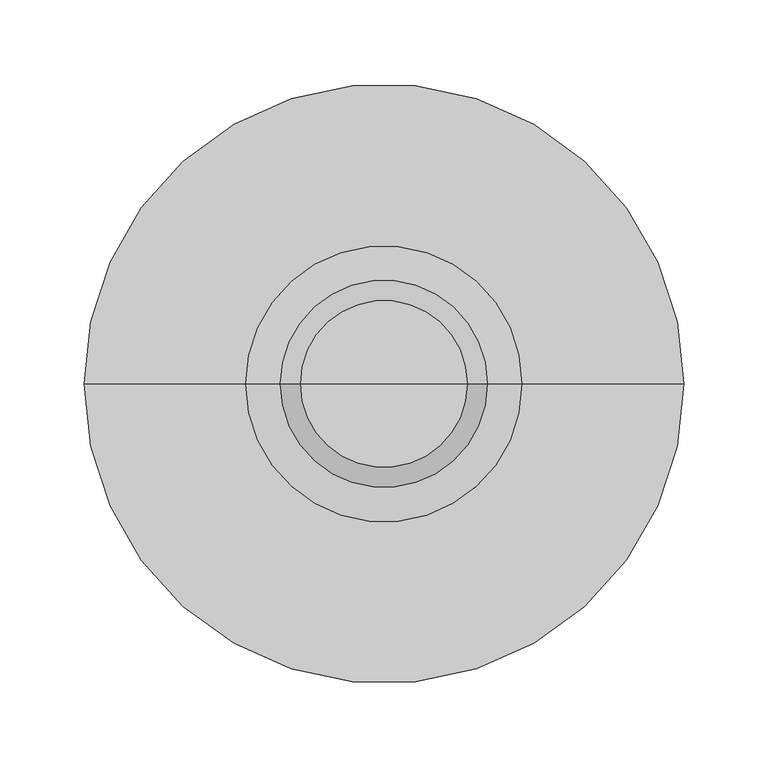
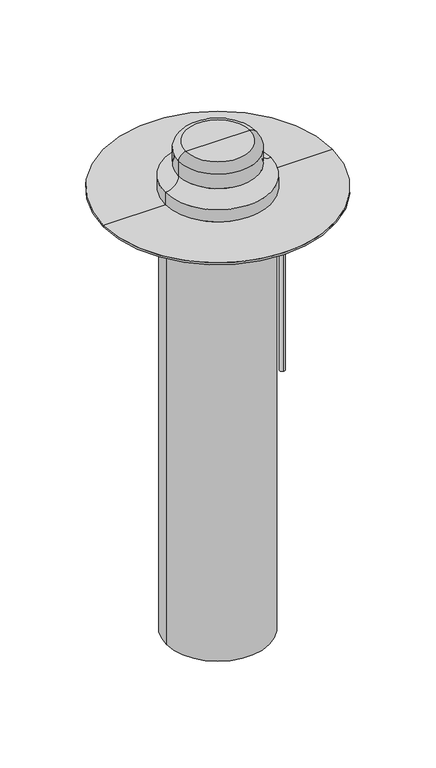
"""IFC4 building model written with IfcOpenShell, lengths in millimetres: flow terminal geometry, BIMLIB_Воронка_Кровельная_Fachmann_VMO : 160х720."""

import ifcopenshell
import ifcopenshell.guid

model = None  # the IFC model being written
_history = None  # IfcOwnerHistory: only IFC2X3 demands one
_inside = {}  # id of a spatial element -> (the spatial element, [elements in it])
_under = {}  # id of a project, library or spatial element -> (it, [spatial elements below it])
_declared = {}  # id of a project -> (the project, [libraries it declares])
_typed = {}  # id of a type object -> (the type object, [elements of that type])
_made_of = {}  # id of a material, layer set ... -> (it, [elements and type objects made of it])


def new_model(schema):
    """Start an empty IFC model of exactly this schema.

    Asked for "IFC4X3", IfcOpenShell would pick the latest addendum, in which some entities
    have other attributes; the version numbers below select the first issue.
    IFC2X3 requires an IfcOwnerHistory on every rooted entity: one is made here for all.
    """
    global model, _history
    if schema == "IFC4X3":
        model = ifcopenshell.file(schema_version=(4, 3, 0, 0))
    else:
        model = ifcopenshell.file(schema=schema)
    _inside.clear()
    _under.clear()
    _declared.clear()
    _typed.clear()
    _made_of.clear()
    _history = None
    if model.schema == "IFC2X3":
        org = make("IfcOrganization", Name="unknown")
        user = make(
            "IfcPersonAndOrganization",
            ThePerson=make("IfcPerson", FamilyName="unknown"),
            TheOrganization=org,
        )
        app = make(
            "IfcApplication",
            ApplicationDeveloper=org,
            Version="unknown",
            ApplicationFullName="unknown",
            ApplicationIdentifier="unknown",
        )
        _history = make(
            "IfcOwnerHistory",
            OwningUser=user,
            OwningApplication=app,
            ChangeAction="ADDED",
            CreationDate=0,
        )
    return model


def make(cls, **values):
    """One entity of the class cls with the attributes given. An attribute that is None is left unset."""
    return model.create_entity(
        cls, **{name: value for name, value in values.items() if value is not None}
    )


def rooted(cls, **values):
    """An entity with a GlobalId (a new one), such as an element, a storey or a relation."""
    return make(cls, GlobalId=ifcopenshell.guid.new(), OwnerHistory=_history, **values)


def si_unit(unit_type, name, prefix=None):
    """IfcSIUnit, for example si_unit("LENGTHUNIT", "METRE", prefix="MILLI")."""
    return make("IfcSIUnit", UnitType=unit_type, Prefix=prefix, Name=name)


def assignment(units):
    """IfcUnitAssignment: the units of a project."""
    return None if units is None else make("IfcUnitAssignment", Units=units)


def point(xyz):
    """IfcCartesianPoint."""
    return None if xyz is None else make("IfcCartesianPoint", Coordinates=xyz)


def direction(xyz):
    """IfcDirection."""
    return None if xyz is None else make("IfcDirection", DirectionRatios=xyz)


def frame(location, z_axis=None, x_axis=None):
    """IfcAxis2Placement3D, a coordinate frame: its origin and axes. An axis left out is left unset."""
    return make(
        "IfcAxis2Placement3D",
        Location=point(location),
        Axis=direction(z_axis),
        RefDirection=direction(x_axis),
    )


def frame_2d(location, x_axis=None):
    """IfcAxis2Placement2D, a coordinate frame in the plane: its origin and x axis."""
    return make(
        "IfcAxis2Placement2D", Location=point(location), RefDirection=direction(x_axis)
    )


def origin():
    """The frame at (0, 0, 0) with its axes left unset."""
    return frame((0.0, 0.0, 0.0))


def origin_with_axes():
    """The frame at (0, 0, 0) with the z axis (0, 0, 1) and the x axis (1, 0, 0) written out."""
    return frame((0.0, 0.0, 0.0), z_axis=(0.0, 0.0, 1.0), x_axis=(1.0, 0.0, 0.0))


def place(relative_to, where):
    """IfcLocalPlacement: puts the frame where relative to a parent placement (None: the world)."""
    return make(
        "IfcLocalPlacement", PlacementRelTo=relative_to, RelativePlacement=where
    )


def context(
    kind, dimensions, precision=None, world=None, true_north=None, identifier=None
):
    """IfcGeometricRepresentationContext, for example the 3D "Model" context."""
    return make(
        "IfcGeometricRepresentationContext",
        ContextIdentifier=identifier,
        ContextType=kind,
        CoordinateSpaceDimension=dimensions,
        Precision=precision,
        WorldCoordinateSystem=world,
        TrueNorth=true_north,
    )


def project(units=None, contexts=None):
    """IfcProject with its units and contexts."""
    return rooted(
        "IfcProject",
        Name="project",
        RepresentationContexts=contexts,
        UnitsInContext=assignment(units),
    )


def spatial(cls, under=None, at=None, **own):
    """A site, building, storey or space (cls), placed at a placement, below another one or the project."""
    s = rooted(cls, ObjectPlacement=at, **own)
    if under is not None:
        _under.setdefault(under.id(), (under, []))[1].append(s)
    return s


def polyline(points):
    """IfcPolyline through the points."""
    return make("IfcPolyline", Points=[point(p) for p in points])


def circle_curve(where, radius):
    """IfcCircle in the frame where."""
    return make("IfcCircle", Position=where, Radius=radius)


def ellipse_curve(where, semi_axis1, semi_axis2):
    """IfcEllipse in the frame where."""
    return make(
        "IfcEllipse", Position=where, SemiAxis1=semi_axis1, SemiAxis2=semi_axis2
    )


def trimmed(basis, trim1, trim2, sense, master):
    """IfcTrimmedCurve: the piece of a basis curve between two trims."""
    return make(
        "IfcTrimmedCurve",
        BasisCurve=basis,
        Trim1=trim1,
        Trim2=trim2,
        SenseAgreement=sense,
        MasterRepresentation=master,
    )


def segment(curve, same_sense, transition):
    """IfcCompositeCurveSegment."""
    return make(
        "IfcCompositeCurveSegment",
        Transition=transition,
        SameSense=same_sense,
        ParentCurve=curve,
    )


def composite_curve(segments, self_intersect=None):
    """IfcCompositeCurve: segments joined end to end."""
    return make("IfcCompositeCurve", Segments=segments, SelfIntersect=self_intersect)


def outline(outer, holes=None, kind="AREA"):
    """IfcArbitraryClosedProfileDef: a profile drawn as a closed curve; with holes, ...WithVoids."""
    if holes is None:
        return make("IfcArbitraryClosedProfileDef", ProfileType=kind, OuterCurve=outer)
    return make(
        "IfcArbitraryProfileDefWithVoids",
        ProfileType=kind,
        OuterCurve=outer,
        InnerCurves=holes,
    )


def extrude(swept, where, along, depth):
    """IfcExtrudedAreaSolid: the profile swept, set in the frame where, extruded along a direction by depth."""
    return make(
        "IfcExtrudedAreaSolid",
        SweptArea=swept,
        Position=where,
        ExtrudedDirection=direction(along),
        Depth=depth,
    )


def shape(context_of_items, identifier, shape_type, items):
    """IfcShapeRepresentation: the items that make up one representation, for example the "Body"."""
    return make(
        "IfcShapeRepresentation",
        ContextOfItems=context_of_items,
        RepresentationIdentifier=identifier,
        RepresentationType=shape_type,
        Items=items,
    )


def source(mapping_origin, context_of_items, identifier, shape_type, items):
    """IfcRepresentationMap: a shape defined once, which mapped items show again and again."""
    return make(
        "IfcRepresentationMap",
        MappingOrigin=mapping_origin,
        MappedRepresentation=shape(context_of_items, identifier, shape_type, items),
    )


def transform(
    local_origin,
    x_axis=None,
    y_axis=None,
    z_axis=None,
    scale=None,
    scale2=None,
    scale3=None,
    uniform=True,
):
    """IfcCartesianTransformationOperator3D, or its non-uniform kind. x_axis, y_axis, z_axis: its Axis1, 2, 3."""
    if uniform:
        return make(
            "IfcCartesianTransformationOperator3D",
            Axis1=direction(x_axis),
            Axis2=direction(y_axis),
            LocalOrigin=point(local_origin),
            Scale=scale,
            Axis3=direction(z_axis),
        )
    return make(
        "IfcCartesianTransformationOperator3DnonUniform",
        Axis1=direction(x_axis),
        Axis2=direction(y_axis),
        LocalOrigin=point(local_origin),
        Scale=scale,
        Axis3=direction(z_axis),
        Scale2=scale2,
        Scale3=scale3,
    )


def mapped(mapping_source, mapping_target):
    """IfcMappedItem: shows the shape of a source again, moved by a transform."""
    return make(
        "IfcMappedItem", MappingSource=mapping_source, MappingTarget=mapping_target
    )


def made_of(thing, what):
    """Note that an element or type object is made of a material, layer set ...; save() writes the relation."""
    if what is not None:
        _made_of.setdefault(what.id(), (what, []))[1].append(thing)
    return thing


def element(
    cls,
    number,
    at=None,
    inside=None,
    cuts=None,
    type_object=None,
    material=None,
    context=None,
    identifier="Body",
    shape_type=None,
    held_by="IfcProductDefinitionShape",
    body=None,
    shapes=None,
    **own,
):
    """One element of the class cls, such as IfcWall. Its Tag is "e" and its number.

    at: its placement. inside: the storey or other place that contains it. cuts: it is an
    opening in that element (IfcRelVoidsElement). A single representation is given by context,
    identifier, shape_type and body (its items); several are given by shapes. held_by: the class
    of the entity that holds the representations. save() writes the other relations.
    """
    e = rooted(cls, Tag="e%d" % number, ObjectPlacement=at, **own)
    if body is not None:
        shapes = [shape(context, identifier, shape_type, body)]
    if shapes is not None:
        e.Representation = make(held_by, Representations=shapes)
    if inside is not None:
        _inside.setdefault(inside.id(), (inside, []))[1].append(e)
    if cuts is not None:
        rooted(
            "IfcRelVoidsElement", RelatingBuildingElement=cuts, RelatedOpeningElement=e
        )
    if type_object is not None:
        _typed.setdefault(type_object.id(), (type_object, []))[1].append(e)
    return made_of(e, material)


def aggregate(whole, parts):
    """IfcRelAggregates: a whole, such as a stair, and the parts it consists of."""
    return rooted("IfcRelAggregates", RelatingObject=whole, RelatedObjects=parts)


def save(model, path):
    """Write the relations noted so far, then the file.

    IfcRelAggregates (storeys below a building ...), IfcRelContainedInSpatialStructure (elements
    in a storey), IfcRelDefinesByType, IfcRelAssociatesMaterial and IfcRelDeclares: one each for
    every whole, place, type object, material and project.
    """
    for whole, parts in _under.values():
        aggregate(whole, parts)
    for where, things in _inside.values():
        rooted(
            "IfcRelContainedInSpatialStructure",
            RelatedElements=things,
            RelatingStructure=where,
        )
    for kind, things in _typed.values():
        rooted("IfcRelDefinesByType", RelatedObjects=things, RelatingType=kind)
    for what, things in _made_of.values():
        rooted("IfcRelAssociatesMaterial", RelatedObjects=things, RelatingMaterial=what)
    for by, libraries in _declared.values():
        rooted("IfcRelDeclares", RelatingContext=by, RelatedDefinitions=libraries)
    model.write(path)


def plane_surface(at):
    """IfcPlane: the flat surface through the origin of the frame at, square to its z axis."""
    return make("IfcPlane", Position=at)


def cylinder_surface(at, radius):
    """IfcCylindricalSurface: all points at the distance radius from the z axis of the frame at."""
    return make("IfcCylindricalSurface", Position=at, Radius=radius)


def revolved_surface(curve, axis_point, axis_direction):
    """IfcSurfaceOfRevolution: the curve turned about the line through axis_point along axis_direction."""
    return make(
        "IfcSurfaceOfRevolution",
        SweptCurve=make("IfcArbitraryOpenProfileDef", ProfileType="CURVE", Curve=curve),
        AxisPosition=make("IfcAxis1Placement", Location=point(axis_point), Axis=direction(axis_direction)),
    )


def advanced_brep(points, edges, surfaces, faces):
    """IfcAdvancedBrep: a solid bounded by faces that lie on surfaces and meet in shared edges.

    An edge is (start, end): straight between two places in points (the first is 0);
    or (start, end, curve); or (start, end, curve, False) where it runs against its curve.
    A face is (place in surfaces, loops), or (place, loops, False) where it looks against
    its surface's normal. A loop lists edges by number (the first is 1), with a minus sign
    where the edge is run from its end to its start. The first loop is the outer one.
    """
    corners = [point(p) for p in points]
    vertices = [make("IfcVertexPoint", VertexGeometry=c) for c in corners]
    made = []
    for start, end, *more in edges:
        made.append(
            make(
                "IfcEdgeCurve",
                EdgeStart=vertices[start],
                EdgeEnd=vertices[end],
                EdgeGeometry=more[0] if more else make("IfcPolyline", Points=[corners[start], corners[end]]),
                SameSense=more[1] if len(more) > 1 else True,
            )
        )
    hull = []
    for where, loops, *sense in faces:
        bounds = []
        for j, loop in enumerate(loops):
            ring = [make("IfcOrientedEdge", EdgeElement=made[abs(k) - 1], Orientation=k > 0) for k in loop]
            bounds.append(
                make(
                    "IfcFaceOuterBound" if j == 0 else "IfcFaceBound",
                    Bound=make("IfcEdgeLoop", EdgeList=ring),
                    Orientation=True,
                )
            )
        hull.append(make("IfcAdvancedFace", Bounds=bounds, FaceSurface=surfaces[where], SameSense=sense[0] if sense else True))
    return make("IfcAdvancedBrep", Outer=make("IfcClosedShell", CfsFaces=hull))


def flow_terminal_64abd529(model_context):
    return source(origin(), model_context, "Body", "SolidModel", [
        extrude(outline(composite_curve([segment(trimmed(circle_curve(frame_2d((100.0, 0.0)), 4.0), [point((100.0, 4.0))], [point((100.0, -4.0))], False, "CARTESIAN"), True, "CONTINUOUS"), segment(trimmed(circle_curve(frame_2d((100.0, 0.0)), 4.0), [point((100.0, -4.0))], [point((100.0, 4.0))], False, "CARTESIAN"), True, "CONTINUOUS")], self_intersect=False)), frame((0.0, 0.0, -332.0), z_axis=(0.0, 0.0, 1.0), x_axis=(1.0, 0.0, 0.0)), (0.0, 0.0, 1.0), 300.0),
        advanced_brep(
        [(80.0, 0.0, -720.0), (-80.0, 0.0, -720.0), (-80.0, 0.0, -57.0), (80.0, 0.0, -57.0), (-113.0, 0.0, -9.0), (113.0, 0.0, -9.0), (113.0, 0.0, -32.0), (-113.0, 0.0, -32.0), (0.0, 0.0, 0.0), (138.0, 0.0, 0.0), (-138.0, 0.0, 0.0), (-90.0, 0.0, -32.0), (90.0, 0.0, -32.0), (90.0, 0.0, -40.0), (-90.0, 0.0, -40.0)],
        [
            (0, 1, circle_curve(frame((0.0, 0.0, -720.0), z_axis=(0.0, 0.0, -1.0), x_axis=(-1.0, 0.0, 0.0)), 80.0)),
            (1, 0, circle_curve(frame((0.0, 0.0, -720.0), z_axis=(0.0, 0.0, -1.0), x_axis=(-1.0, 0.0, 0.0)), 80.0)),
            (1, 2),
            (2, 3, circle_curve(frame((0.0, 0.0, -57.0), z_axis=(0.0, 0.0, -1.0), x_axis=(-1.0, 0.0, 0.0)), 80.0)),
            (3, 0),
            (3, 2, circle_curve(frame((0.0, 0.0, -57.0), z_axis=(0.0, 0.0, -1.0), x_axis=(-1.0, 0.0, 0.0)), 80.0)),
            (4, 5, circle_curve(frame((0.0, 0.0, -9.0), z_axis=(0.0, 0.0, -1.0), x_axis=(1.0, 0.0, 0.0)), 113.0)),
            (5, 6),
            (6, 7, circle_curve(frame((0.0, 0.0, -32.0), z_axis=(0.0, 0.0, 1.0), x_axis=(1.0, 0.0, 0.0)), 113.0)),
            (7, 4),
            (5, 4, circle_curve(frame((0.0, 0.0, -9.0), z_axis=(0.0, 0.0, -1.0), x_axis=(1.0, 0.0, 0.0)), 113.0)),
            (7, 6, circle_curve(frame((0.0, 0.0, -32.0), z_axis=(0.0, 0.0, 1.0), x_axis=(1.0, 0.0, 0.0)), 113.0)),
            (8, 9),
            (9, 10, circle_curve(origin_with_axes(), 138.0)),
            (10, 8),
            (10, 9, circle_curve(origin_with_axes(), 138.0)),
            (4, 10),
            (9, 5),
            (11, 12, circle_curve(frame((0.0, 0.0, -32.0), z_axis=(0.0, 0.0, -1.0), x_axis=(1.0, 0.0, 0.0)), 90.0)),
            (12, 13),
            (13, 14, circle_curve(frame((0.0, 0.0, -40.0), z_axis=(0.0, 0.0, 1.0), x_axis=(1.0, 0.0, 0.0)), 90.0)),
            (14, 11),
            (12, 11, circle_curve(frame((0.0, 0.0, -32.0), z_axis=(0.0, 0.0, -1.0), x_axis=(1.0, 0.0, 0.0)), 90.0)),
            (14, 13, circle_curve(frame((0.0, 0.0, -40.0), z_axis=(0.0, 0.0, 1.0), x_axis=(1.0, 0.0, 0.0)), 90.0)),
            (6, 12),
            (11, 7),
            (13, 3),
            (2, 14),
        ],
        [
            plane_surface(frame((-80.0, 0.0, -720.0), z_axis=(0.0, 0.0, -1.0), x_axis=(0.0, 1.0, 0.0))),
            cylinder_surface(frame((0.0, 0.0, -720.0), z_axis=(0.0, 0.0, 1.0), x_axis=(-1.0, 0.0, 0.0)), 80.0),
            cylinder_surface(frame((0.0, 0.0, 159.0), z_axis=(0.0, 0.0, 1.0), x_axis=(1.0, 0.0, 0.0)), 113.0),
            plane_surface(origin_with_axes()),
            revolved_surface(polyline([(113.0, 0.0, -9.0), (138.0, 0.0, 0.0)]), (0.0, 0.0, 159.0), (0.0, 0.0, 1.0)),
            cylinder_surface(frame((0.0, 0.0, 159.0), z_axis=(0.0, 0.0, 1.0), x_axis=(1.0, 0.0, 0.0)), 90.0),
            plane_surface(frame((0.0, 0.0, -32.0), z_axis=(0.0, 0.0, -1.0), x_axis=(1.0, 0.0, 0.0))),
            revolved_surface(polyline([(80.0, 0.0, -57.0), (90.0, 0.0, -40.0)]), (0.0, 0.0, 159.0), (0.0, 0.0, 1.0)),
        ],
        [
            (0, [[1, 2]]),
            (1, [[-2, 3, 4, 5]]),
            (1, [[-1, -5, 6, -3]]),
            (2, [[7, 8, 9, 10]]),
            (2, [[-8, 11, -10, 12]]),
            (3, [[13, 14, 15]]),
            (3, [[-13, -15, 16]]),
            (4, [[-7, 17, -14, 18]]),
            (4, [[-11, -18, -16, -17]]),
            (5, [[19, 20, 21, 22]]),
            (5, [[-20, 23, -22, 24]]),
            (6, [[-9, 25, -19, 26]]),
            (6, [[-12, -26, -23, -25]]),
            (7, [[-21, 27, -4, 28]]),
            (7, [[-24, -28, -6, -27]]),
        ],
    ),
        advanced_brep(
        [(0.0, 0.0, 79.0), (49.5, 0.0, 79.0), (-49.5, 0.0, 79.0), (-178.0, 0.0, 0.0), (178.0, 0.0, 0.0), (0.0, 0.0, 0.0), (-178.0, 0.0, 3.0), (178.0, 0.0, 3.0), (-82.0, 0.0, 3.0), (82.0, 0.0, 3.0), (-61.5, 0.0, 67.0), (61.5, 0.0, 67.0), (61.5, 0.0, 43.5), (-61.5, 0.0, 43.5), (-82.0, 0.0, 23.0), (82.0, 0.0, 23.0)],
        [
            (0, 1),
            (1, 2, circle_curve(frame((0.0, 0.0, 79.0), z_axis=(0.0, 0.0, 1.0), x_axis=(1.0, 0.0, 0.0)), 49.5)),
            (2, 0),
            (2, 1, circle_curve(frame((0.0, 0.0, 79.0), z_axis=(0.0, 0.0, 1.0), x_axis=(1.0, 0.0, 0.0)), 49.5)),
            (3, 4, circle_curve(frame((0.0, 0.0, 0.0), z_axis=(0.0, 0.0, -1.0), x_axis=(1.0, 0.0, 0.0)), 178.0)),
            (4, 5),
            (5, 3),
            (4, 3, circle_curve(frame((0.0, 0.0, 0.0), z_axis=(0.0, 0.0, -1.0), x_axis=(1.0, 0.0, 0.0)), 178.0)),
            (6, 7, circle_curve(frame((0.0, 0.0, 3.0), z_axis=(0.0, 0.0, -1.0), x_axis=(1.0, 0.0, 0.0)), 178.0)),
            (7, 4),
            (3, 6),
            (7, 6, circle_curve(frame((0.0, 0.0, 3.0), z_axis=(0.0, 0.0, -1.0), x_axis=(1.0, 0.0, 0.0)), 178.0)),
            (8, 9, circle_curve(frame((0.0, 0.0, 3.0), z_axis=(0.0, 0.0, -1.0), x_axis=(1.0, 0.0, 0.0)), 82.0)),
            (9, 7),
            (6, 8),
            (9, 8, circle_curve(frame((0.0, 0.0, 3.0), z_axis=(0.0, 0.0, -1.0), x_axis=(1.0, 0.0, 0.0)), 82.0)),
            (10, 11, circle_curve(frame((0.0, 0.0, 67.0), z_axis=(0.0, 0.0, -1.0), x_axis=(1.0, 0.0, 0.0)), 61.5)),
            (11, 12),
            (12, 13, circle_curve(frame((0.0, 0.0, 43.5), z_axis=(0.0, 0.0, 1.0), x_axis=(1.0, 0.0, 0.0)), 61.5)),
            (13, 10),
            (11, 10, circle_curve(frame((0.0, 0.0, 67.0), z_axis=(0.0, 0.0, -1.0), x_axis=(1.0, 0.0, 0.0)), 61.5)),
            (13, 12, circle_curve(frame((0.0, 0.0, 43.5), z_axis=(0.0, 0.0, 1.0), x_axis=(1.0, 0.0, 0.0)), 61.5)),
            (1, 11, circle_curve(frame((49.5, 0.0, 67.0), z_axis=(0.0, 1.0, 0.0), x_axis=(1.0, 0.0, 0.0)), 12.0)),
            (10, 2, circle_curve(frame((-49.5, 0.0, 67.0), z_axis=(0.0, 1.0, 0.0), x_axis=(-1.0, 0.0, 0.0)), 12.0)),
            (14, 15, circle_curve(frame((0.0, 0.0, 23.0), z_axis=(0.0, 0.0, -1.0), x_axis=(1.0, 0.0, 0.0)), 82.0)),
            (15, 9),
            (8, 14),
            (15, 14, circle_curve(frame((0.0, 0.0, 23.0), z_axis=(0.0, 0.0, -1.0), x_axis=(1.0, 0.0, 0.0)), 82.0)),
            (12, 15, circle_curve(frame((82.0, 0.0, 43.5), z_axis=(0.0, -1.0, 0.0), x_axis=(1.0, 0.0, 0.0)), 20.5)),
            (14, 13, circle_curve(frame((-82.0, 0.0, 43.5), z_axis=(0.0, -1.0, 0.0), x_axis=(-1.0, 0.0, 0.0)), 20.5)),
        ],
        [
            plane_surface(frame((0.0, 0.0, 79.0), z_axis=(0.0, 0.0, 1.0), x_axis=(1.0, 0.0, 0.0))),
            plane_surface(frame((0.0, 0.0, 0.0), z_axis=(0.0, 0.0, -1.0), x_axis=(1.0, 0.0, 0.0))),
            cylinder_surface(frame((0.0, 0.0, 229.0), z_axis=(0.0, 0.0, 1.0), x_axis=(1.0, 0.0, 0.0)), 178.0),
            plane_surface(frame((0.0, 0.0, 3.0), z_axis=(0.0, 0.0, 1.0), x_axis=(1.0, 0.0, 0.0))),
            cylinder_surface(frame((0.0, 0.0, 229.0), z_axis=(0.0, 0.0, 1.0), x_axis=(1.0, 0.0, 0.0)), 61.5),
            revolved_surface(trimmed(ellipse_curve(frame((49.5, 0.0, 67.0), z_axis=(0.0, -1.0, 0.0), x_axis=(1.0, 0.0, 0.0)), 12.0, 12.0), [point((61.5, 0.0, 67.0))], [point((49.5, 0.0, 79.0))], True, "CARTESIAN"), (0.0, 0.0, 229.0), (0.0, 0.0, 1.0)),
            cylinder_surface(frame((0.0, 0.0, 229.0), z_axis=(0.0, 0.0, 1.0), x_axis=(1.0, 0.0, 0.0)), 82.0),
            revolved_surface(trimmed(ellipse_curve(frame((82.0, 0.0, 43.5), z_axis=(0.0, 1.0, 0.0), x_axis=(1.0, 0.0, 0.0)), 20.5, 20.5), [point((82.0, 0.0, 23.0))], [point((61.5, 0.0, 43.5))], True, "CARTESIAN"), (0.0, 0.0, 229.0), (0.0, 0.0, 1.0)),
        ],
        [
            (0, [[1, 2, 3]]),
            (0, [[-3, 4, -1]]),
            (1, [[5, 6, 7]]),
            (1, [[8, -7, -6]]),
            (2, [[9, 10, -5, 11]]),
            (2, [[12, -11, -8, -10]]),
            (3, [[13, 14, -9, 15]]),
            (3, [[16, -15, -12, -14]]),
            (4, [[17, 18, 19, 20]]),
            (4, [[21, -20, 22, -18]]),
            (5, [[-2, 23, -17, 24]]),
            (5, [[-4, -24, -21, -23]]),
            (6, [[25, 26, -13, 27]]),
            (6, [[28, -27, -16, -26]]),
            (7, [[-19, 29, -25, 30]]),
            (7, [[-22, -30, -28, -29]]),
        ],
    ),
    ])


if __name__ == "__main__":
    model = new_model("IFC4")
    model_context = context("Model", 3, world=origin())
    ifc_project = project(units=[si_unit("LENGTHUNIT", "METRE", prefix="MILLI")], contexts=[model_context])
    site = spatial("IfcSite", under=ifc_project)
    building = spatial("IfcBuilding", under=site)
    placement = place(None, origin())
    flow_terminal_shape = flow_terminal_64abd529(model_context)
    element("IfcFlowTerminal", 1, ObjectType="BIMLIB_Воронка_Кровельная_Fachmann_VMO : 160х720", at=placement, inside=building, context=model_context, shape_type="MappedRepresentation", body=[
        mapped(flow_terminal_shape, transform((0.0, 0.0, 0.0), x_axis=(1.0, 0.0, 0.0), y_axis=(0.0, 1.0, 0.0), z_axis=(0.0, 0.0, 1.0))),
    ])
    save(model, "model.ifc")
